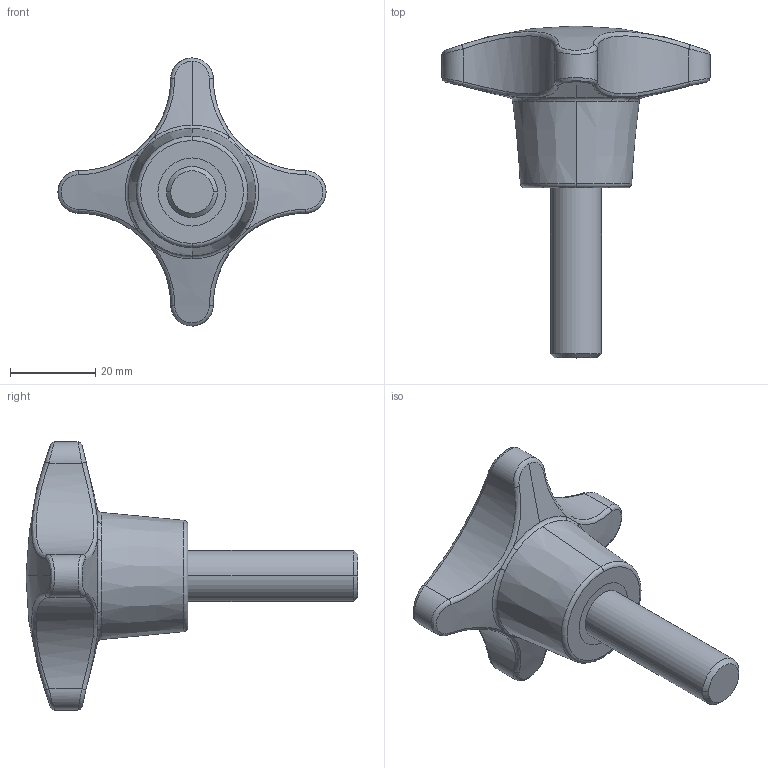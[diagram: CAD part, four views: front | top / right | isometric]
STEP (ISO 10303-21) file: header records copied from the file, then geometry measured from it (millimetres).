
FILE_DESCRIPTION (( 'STEP AP214' ), '1' );
FILE_NAME ('1121 63 501.STEP', '2010-11-26T15:57:29', ( 'Marc' ), ( '' ), 'SwSTEP 2.0', 'SolidWorks 2010', '' );
FILE_SCHEMA (( 'AUTOMOTIVE_DESIGN' ));
Length unit declared in the file: millimetre
Products named in the file (1): 1121 63 501
Bounding box: 63 x 78 x 63 mm (x, y, z)
Volume: 41365.2 mm3; surface area: 9506.3 mm2
Topology: 2 solids, 2 shells, 65 faces, 142 edges, 84 vertices
Faces by surface type: bspline 20, cylinder 17, torus 11, cone 9, plane 6, sphere 2
Entity records: 9530 total; most frequent: CARTESIAN_POINT 7990, ORIENTED_EDGE 284, DIRECTION 256, EDGE_CURVE 142, AXIS2_PLACEMENT_3D 117, VERTEX_POINT 84, CIRCLE 71, EDGE_LOOP 68
